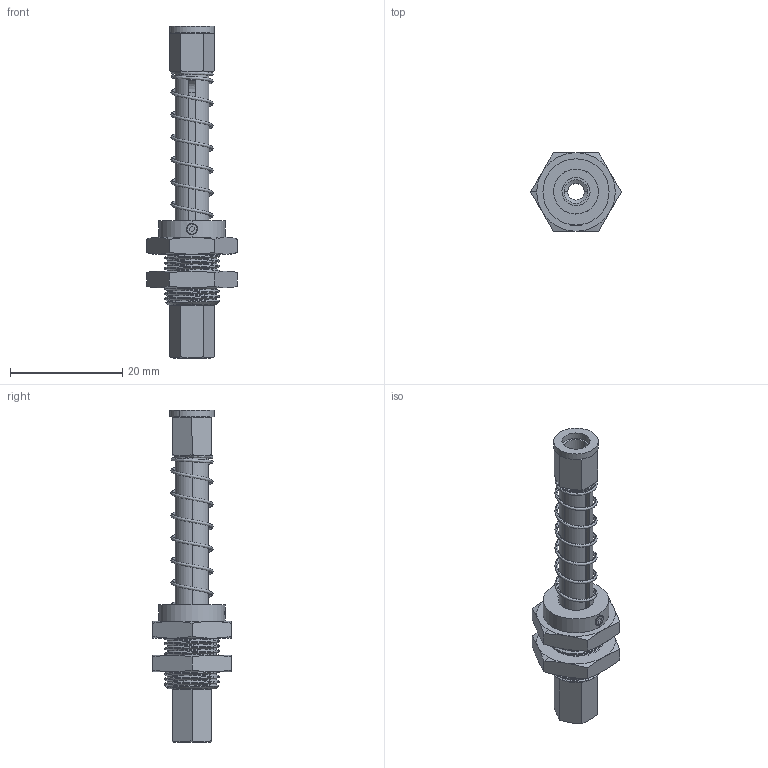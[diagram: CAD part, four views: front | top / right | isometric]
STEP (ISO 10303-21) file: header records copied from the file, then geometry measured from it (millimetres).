
FILE_DESCRIPTION (( 'STEP AP203' ), '1' );
FILE_NAME ('FSTE-M5-IG-20-VG.STEP', '2024-05-16T02:18:15', ( '微软用户' ), ( '微软中国' ), 'SwSTEP 2.0', 'SolidWorks 2018', '' );
FILE_SCHEMA (( 'CONFIG_CONTROL_DESIGN' ));
Length unit declared in the file: millimetre
Products named in the file (8): FSTE-M5-IG-20-VG粣裝; FSTE-M5-IG-20-VG踢撿芛; FSTE-M5-IG-20-VG掛极; FSTE-M5-IG-20-VG砦葆蹟佪M2-4; FSTE-M5-IG-20-VG粟銅; FSTE-M5-IG-20-VG鞠褒情蹟譫; FSTE-M5-IG-20-VG菜え; FSTE-M5-IG-20-VG
Assembly tree (8 placements, depth 2):
  FSTE-M5-IG-20-VG
    FSTE-M5-IG-20-VG粣裝
    FSTE-M5-IG-20-VG踢撿芛
    FSTE-M5-IG-20-VG掛极
    FSTE-M5-IG-20-VG砦葆蹟佪M2-4
    FSTE-M5-IG-20-VG粟銅
    FSTE-M5-IG-20-VG鞠褒情蹟譫  x2
    FSTE-M5-IG-20-VG菜え
Bounding box: 16.17 x 14 x 59.2 mm (x, y, z)
Volume: 2766.6 mm3; surface area: 4560.6 mm2
Topology: 8 solids, 8 shells, 221 faces, 523 edges, 322 vertices
Faces by surface type: cylinder 75, cone 64, plane 61, bspline 19, torus 2
Entity records: 14173 total; most frequent: CARTESIAN_POINT 9291, ORIENTED_EDGE 926, DIRECTION 731, EDGE_CURVE 463, VERTEX_POINT 288, AXIS2_PLACEMENT_3D 286, EDGE_LOOP 209, FACE_OUTER_BOUND 193
